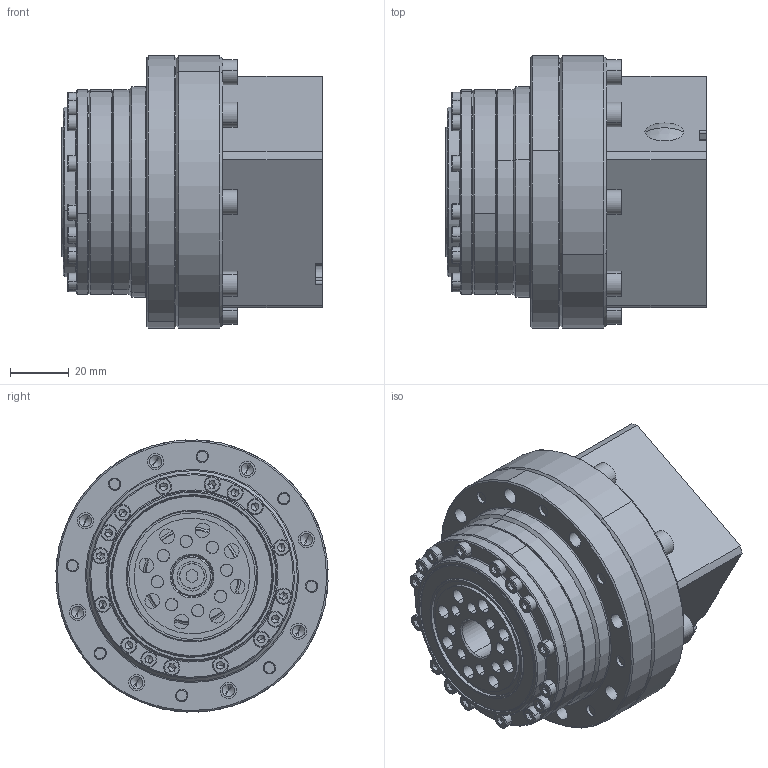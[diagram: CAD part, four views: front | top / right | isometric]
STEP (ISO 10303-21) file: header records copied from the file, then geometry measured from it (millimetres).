
FILE_DESCRIPTION (( 'STEP AP203' ), '1' );
FILE_NAME ('LCSG-20-XXX-RDB-14-30-50-70-M4.STEP', '2024-05-14T02:14:48', ( '' ), ( '' ), 'SwSTEP 2.0', 'SolidWorks 2020', '' );
FILE_SCHEMA (( 'CONFIG_CONTROL_DESIGN' ));
Length unit declared in the file: millimetre
Products named in the file (32): 15Z-45555.STEP; ________________M3 x 12_________________M3 x 12.STEP; RZC-20______.STEP; LCSG-20-XXX-RDB-14-30-50-70-M4; GB／T276-94深沟球轴承61905-2RZ(GCr4); LCSG-20-XXX-P05B-RDF菜え; RZC-20G______+____.STEP; ________________M5 x 16_________________M5 x 16.STEP; LCS-20-P04.STEP; GB／T70．1-2000内六角圆柱头螺钉M5×25(12．9级); ________________M3 x 16_________________M3 x 16.STEP; DB-20-I.STEP; LCSG-20-XXX-P06A-RDB 蛌諉粣; LCSG-20-P02 .STEP; LCSG-20-XXX-C-I-S0.STEP; TBP06_25-轴用反向挡圈-怡合达; LHS-20-XXX-P03-I-S0.STEP; GB／T1096-1979普通平键C型5×12(45钢); LCS-20-P04-1.STEP; LCS-20-XXX-P05.STEP; GB／T70．1-2000内六角圆柱头螺钉M5×16(12．9级); LCS-20-P04-3.STEP; LHSG-25-XXX-P19-RDR  標踡杶; ________________ M2.5 x 6_ISO 7046-1 - M2.5 x 6 - Z --- 6C.STEP;  LCS-20-XXX-P01.STEP; LCSG-20-XXX-P07C-RDB 萇儂蟀諉楊擘; GB／T70．1-2000内六角圆柱头螺钉M5×10(12．9级); LCSG-20-XXX-C-I-S0; TBP16_42-孔用反向挡圈-怡合达; 尼龙扣式塞头，开孔10mm（淘宝）; ________RZC-20G.STEP;  LCS-20-P04-2.STEP
Assembly tree (62 placements, depth 5):
  LCSG-20-XXX-RDB-14-30-50-70-M4
    GB／T276-94深沟球轴承61905-2RZ(GCr4)
    LCSG-20-XXX-P06A-RDB 蛌諉粣
    LCSG-20-XXX-P07C-RDB 萇儂蟀諉楊擘
    GB／T70．1-2000内六角圆柱头螺钉M5×25(12．9级)  x8
    TBP06_25-轴用反向挡圈-怡合达
    TBP16_42-孔用反向挡圈-怡合达
    LCSG-20-XXX-C-I-S0
      LCSG-20-XXX-C-I-S0.STEP
        ________RZC-20G.STEP
          RZC-20G______+____.STEP
          RZC-20______.STEP
        LCS-20-P04.STEP
          LCS-20-P04-3.STEP
          LCS-20-P04-1.STEP
           LCS-20-P04-2.STEP
          ________________M3 x 12_________________M3 x 12.STEP  x4
          15Z-45555.STEP
        LHS-20-XXX-P03-I-S0.STEP
        DB-20-I.STEP
        ________________ M2.5 x 6_ISO 7046-1 - M2.5 x 6 - Z --- 6C.STEP  x4
         LCS-20-XXX-P01.STEP
        LCSG-20-P02 .STEP
        LCS-20-XXX-P05.STEP
        ________________M5 x 16_________________M5 x 16.STEP  x8
        ________________M3 x 16_________________M3 x 16.STEP  x12
    GB／T1096-1979普通平键C型5×12(45钢)
    LCSG-20-XXX-P05B-RDF菜え
    GB／T70．1-2000内六角圆柱头螺钉M5×10(12．9级)
    LHSG-25-XXX-P19-RDR  標踡杶
    尼龙扣式塞头，开孔10mm（淘宝）
    GB／T70．1-2000内六角圆柱头螺钉M5×16(12．9级)
Bounding box: 89 x 92.92 x 92.92 mm (x, y, z)
Volume: 305220 mm3; surface area: 155421.6 mm2
Topology: 82 solids, 82 shells, 2293 faces, 5622 edges, 3411 vertices
Faces by surface type: plane 777, cylinder 717, cone 349, torus 252, sphere 198
Entity records: 52258 total; most frequent: CARTESIAN_POINT 11362, DIRECTION 8354, ORIENTED_EDGE 7264, EDGE_CURVE 3632, AXIS2_PLACEMENT_3D 3595, VERTEX_POINT 2328, CIRCLE 2063, EDGE_LOOP 1824
